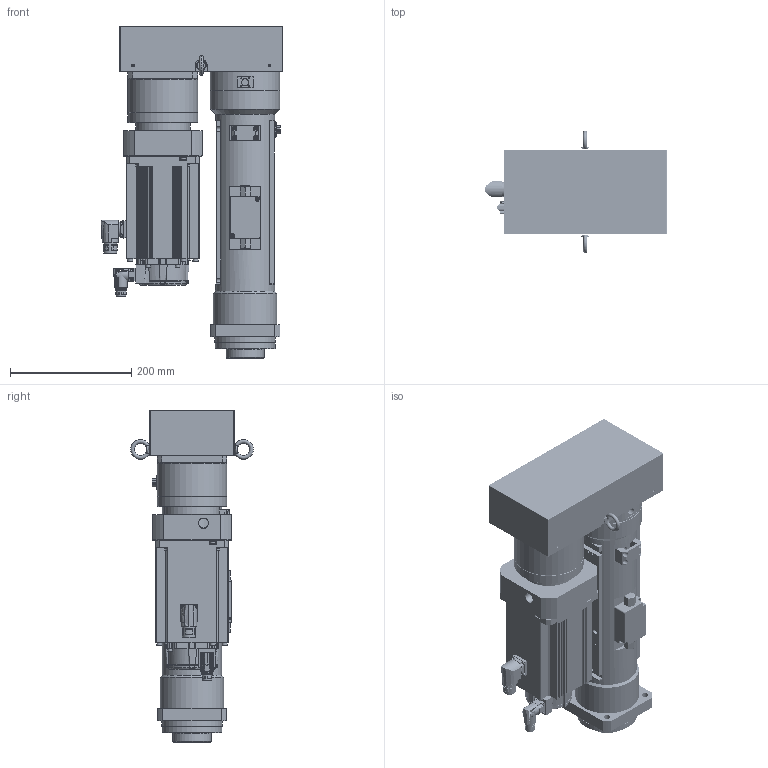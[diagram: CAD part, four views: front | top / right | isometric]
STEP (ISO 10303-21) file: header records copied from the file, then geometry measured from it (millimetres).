
FILE_DESCRIPTION( ('This file contains a STEP AP42 implementation' ,'as created by ZW3D STEP Interface translator.') ,'2;1' );
FILE_NAME( 'OACIS-DC-P025-P030-200-215-A6V400_V20.51.stp' ,'26 416.1520 1', (''), ('ZWCAD Software Co.'), 'Version 1.0', 'ZW3D to STEP translator', '' );
FILE_SCHEMA(('AUTOMOTIVE_DESIGN { 1 0 10303 214 1 1 1 1 }'));
Length unit declared in the file: millimetre
Products named in the file (1): 0
Bounding box: 299.5 x 202.6 x 548 mm (x, y, z)
Volume: 8171738.6 mm3; surface area: 1283405.2 mm2
Topology: 44 solids, 47 shells, 2283 faces, 5890 edges, 3925 vertices
Faces by surface type: plane 983, cylinder 935, cone 229, torus 90, bspline 26, sphere 20
Full cylindrical faces by diameter (mm): 1.25 x12, 1.6 x8, 2.232 x6, 2.459 x5, 2.75 x4, 2.8 x1, 3.2 x5, 3.3 x76, 4.2 x4, 4.3 x24, 4.5 x4, 5 x26, 5.5 x9, 6 x4, 6.6 x11, 6.647 x4, 6.8 x42, 7 x4, 8 x32, 8.4 x8, 8.5 x25, 9 x8, 9.5 x4, 10 x8, 10.106 x1, 11 x12, 12 x1, 13.4 x1, 15 x8, 15.5 x2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
Entity records: 76844 total; most frequent: CARTESIAN_POINT 16763, DIRECTION 12510, ORIENTED_EDGE 11508, EDGE_CURVE 5796, AXIS2_PLACEMENT_3D 4761, VERTEX_POINT 3859, VECTOR 2988, LINE 2988
